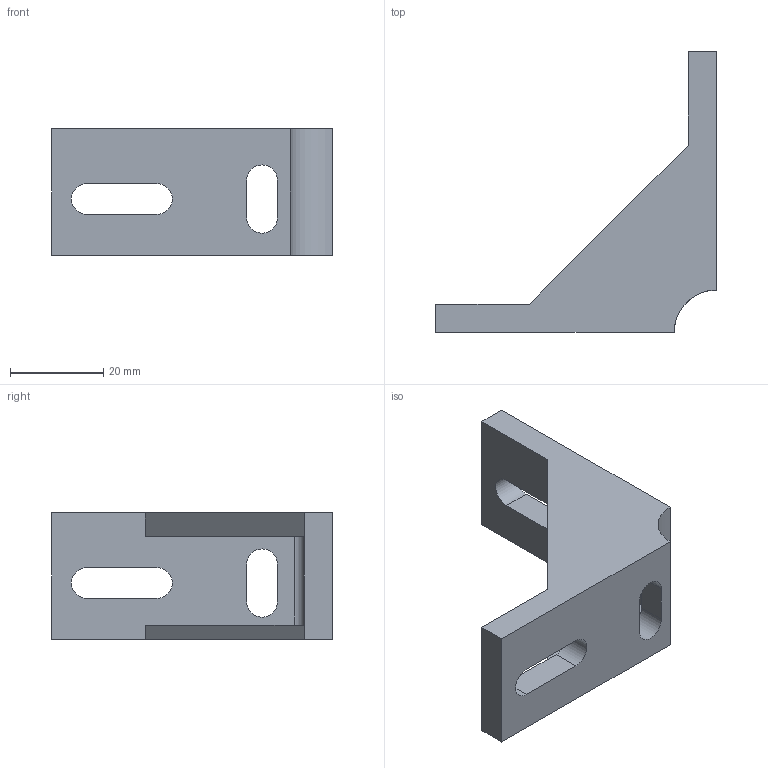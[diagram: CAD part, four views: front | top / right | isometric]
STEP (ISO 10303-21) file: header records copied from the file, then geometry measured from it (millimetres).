
FILE_DESCRIPTION(/* description */ ('Unknown'),/* implementation_level */ '2;1');
FILE_NAME(/* name */ 'DL2760K',/* time_stamp */ '2026-09-17T16:15:51+08:00',/* author */ ('Unknown'),/* organization */ ('Unknown'),/* preprocessor_version */ 'ST-DEVELOPER v16.7',/* originating_system */ 'DEX',/* authorisation */ $);
FILE_SCHEMA (('AUTOMOTIVE_DESIGN {1 0 10303 214 3 1 1}'));
Length unit declared in the file: millimetre
Products named in the file (1): DCB2760-6
Bounding box: 60 x 60 x 27 mm (x, y, z)
Volume: 18748 mm3; surface area: 9919.8 mm2
Topology: 1 solids, 1 shells, 30 faces, 84 edges, 56 vertices
Faces by surface type: plane 20, cylinder 10
Entity records: 1014 total; most frequent: CARTESIAN_POINT 171, ORIENTED_EDGE 168, DIRECTION 166, EDGE_CURVE 84, LINE 64, VECTOR 64, VERTEX_POINT 56, AXIS2_PLACEMENT_3D 51
